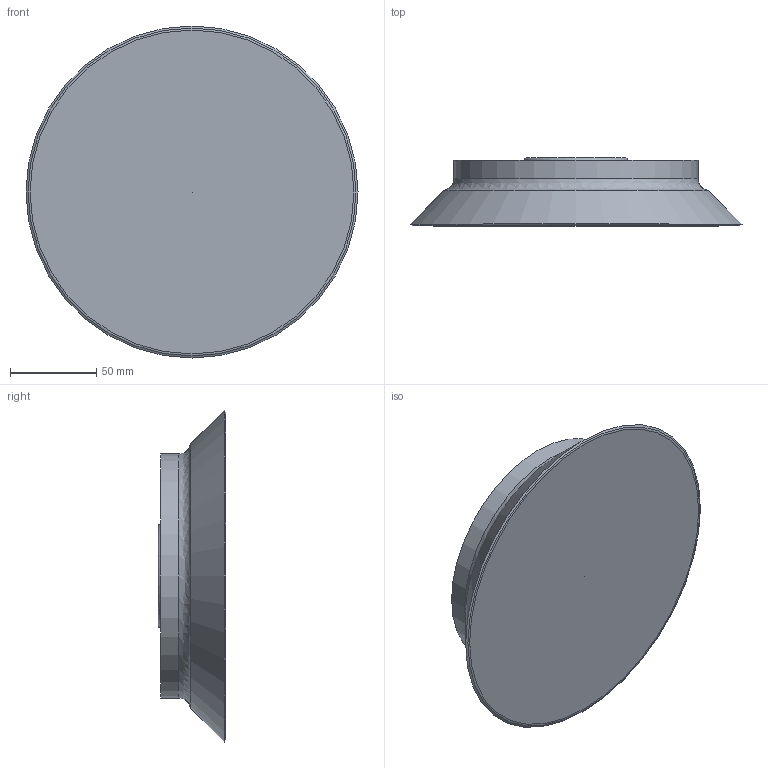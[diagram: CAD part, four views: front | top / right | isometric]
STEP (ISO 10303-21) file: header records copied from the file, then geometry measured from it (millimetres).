
FILE_DESCRIPTION((''),'2;1');
FILE_NAME('S:\Technik\Konstruktion\CAD-Daten\Kundenmodelle\154.191.025_Kd.stp','2010-10-11T14:10:57',('JGarcia-Martinez'),(''),'Autodesk Inventor 2009','Autodesk Inventor 2009','');
FILE_SCHEMA(('AUTOMOTIVE_DESIGN { 1 0 10303 214 1 1 1 1 }'));
Length unit declared in the file: millimetre
Products named in the file (3): 154.191
Assembly tree (2 placements, depth 2):
  154.191
    154.191
    154.191
Bounding box: 193 x 39.5 x 193 mm (x, y, z)
Volume: 769402.6 mm3; surface area: 119439 mm2
Topology: 2 solids, 2 shells, 23 faces, 43 edges, 27 vertices
Faces by surface type: cylinder 8, plane 6, bspline 4, cone 3, torus 2
Full cylindrical faces by diameter (mm): 8.6 x4, 13 x1, 120 x2, 142 x1
Entity records: 669 total; most frequent: CARTESIAN_POINT 161, DIRECTION 100, ORIENTED_EDGE 52, EDGE_LOOP 52, AXIS2_PLACEMENT_3D 50, FACE_BOUND 29, VERTEX_POINT 26, CIRCLE 26
